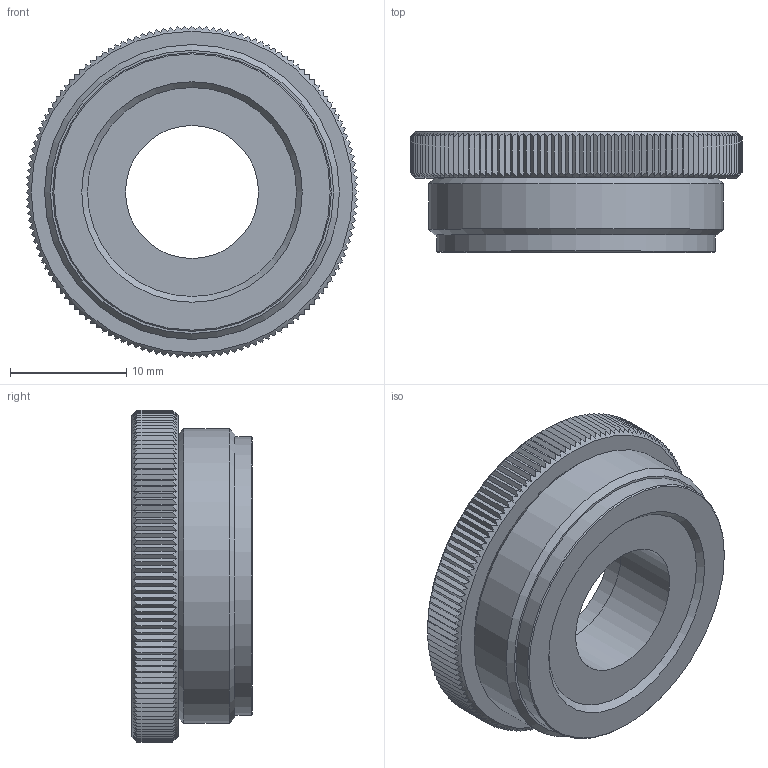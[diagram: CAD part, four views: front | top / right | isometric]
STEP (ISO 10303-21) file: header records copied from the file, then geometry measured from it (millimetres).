
FILE_DESCRIPTION(/* description */ (''),/* implementation_level */ '2;1');
FILE_NAME(/* name */ 'KSM_192-15-4-00-00_MinilinsenAdapter (1-32UN_M12x0,5).stp',/* time_stamp */ '2026-01-20T09:23:18+01:00',/* author */ ('Westermann'),/* organization */ ('TIS/ Germany'),/* preprocessor_version */ 'ST-DEVELOPER v20',/* originating_system */ 'Autodesk Inventor 2025',/* authorisation */ '520025 mm^3');
FILE_SCHEMA (('AUTOMOTIVE_DESIGN { 1 0 10303 214 3 1 1 }'));
Length unit declared in the file: millimetre
Products named in the file (3): KSM_192-15-4-00-00_MinilinsenAdapter (1-32UN_M12x0,5); 192-15-4-00-01_Skt-Reduziering M12x0,5; 192-15-4-00-02_Rändelmutter
Assembly tree (2 placements, depth 2):
  KSM_192-15-4-00-00_MinilinsenAdapter (1-32UN_M12x0,5)
    192-15-4-00-01_Skt-Reduziering M12x0,5
    192-15-4-00-02_Rändelmutter
Bounding box: 28.6 x 10.4 x 28.6 mm (x, y, z)
Volume: 2633.3 mm3; surface area: 3556 mm2
Topology: 2 solids, 2 shells, 323 faces, 940 edges, 626 vertices
Faces by surface type: plane 303, cylinder 12, cone 7, torus 1
Full cylindrical faces by diameter (mm): 11.459 x2, 23.6 x1, 24 x1, 25.4 x1, 26 x1
Entity records: 10025 total; most frequent: CARTESIAN_POINT 3046, ORIENTED_EDGE 1880, DIRECTION 1059, EDGE_CURVE 940, VERTEX_POINT 626, AXIS2_PLACEMENT_3D 367, EDGE_LOOP 332, LINE 325
